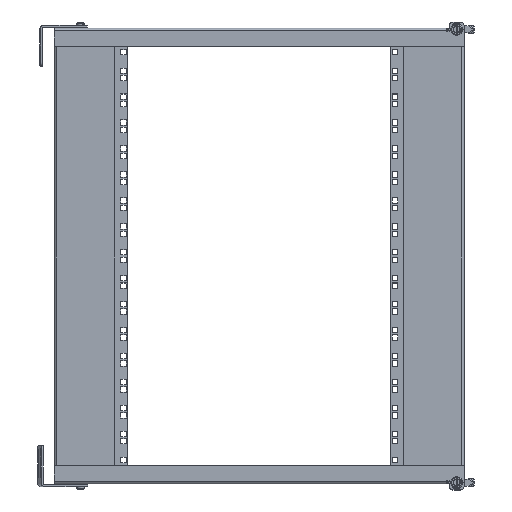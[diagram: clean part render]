
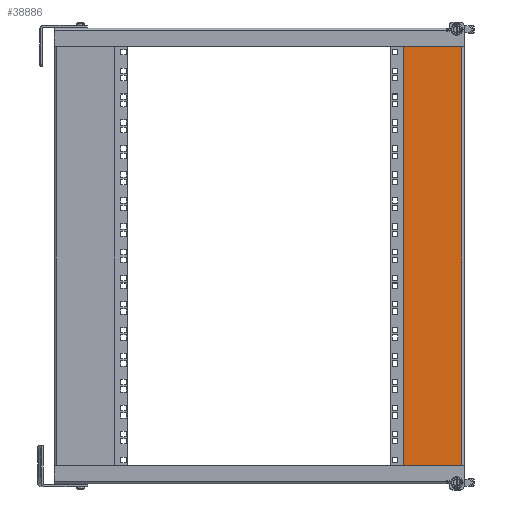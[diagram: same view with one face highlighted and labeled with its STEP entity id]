
A CAD part, top view. The second image highlights one B-rep face of the part: STEP entity #38886.
In plain terms, the highlighted planar face has unit normal (0, 0, 1) as drawn and (0, -1, 0) by its records, which use the part's own axes.
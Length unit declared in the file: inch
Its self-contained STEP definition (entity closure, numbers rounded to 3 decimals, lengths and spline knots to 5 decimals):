
#603 = EDGE_CURVE ( 'NONE', #13053, #13051, #7141, .T. ) ;
#605 = EDGE_CURVE ( 'NONE', #13053, #13055, #7145, .T. ) ;
#606 = EDGE_CURVE ( 'NONE', #13056, #13051, #7140, .T. ) ;
#611 = EDGE_CURVE ( 'NONE', #13055, #13056, #7153, .T. ) ;
#2170 = ORIENTED_EDGE ( 'NONE', *, *, #603, .F. ) ;
#2171 = ORIENTED_EDGE ( 'NONE', *, *, #605, .T. ) ;
#2172 = ORIENTED_EDGE ( 'NONE', *, *, #611, .T. ) ;
#2173 = ORIENTED_EDGE ( 'NONE', *, *, #606, .T. ) ;
#7140 = LINE ( 'NONE', #8617, #7147 ) ;
#7141 = LINE ( 'NONE', #8606, #7143 ) ;
#7143 = VECTOR ( 'NONE', #8616, 39.37008 ) ;
#7145 = LINE ( 'NONE', #8619, #7146 ) ;
#7146 = VECTOR ( 'NONE', #8620, 39.37008 ) ;
#7147 = VECTOR ( 'NONE', #8622, 39.37008 ) ;
#7148 = VECTOR ( 'NONE', #8634, 39.37008 ) ;
#7153 = LINE ( 'NONE', #8633, #7148 ) ;
#8606 = CARTESIAN_POINT ( 'NONE',  ( -14.1125, -0.575, 0.08 ) ) ;
#8616 = DIRECTION ( 'NONE',  ( -1., 0., 0. ) ) ;
#8617 = CARTESIAN_POINT ( 'NONE',  ( -14.1125, -0.575, 0. ) ) ;
#8619 = CARTESIAN_POINT ( 'NONE',  ( 14.1125, -0.575, 0. ) ) ;
#8620 = DIRECTION ( 'NONE',  ( 0., 0., 1. ) ) ;
#8622 = DIRECTION ( 'NONE',  ( 0., 0., -1. ) ) ;
#8633 = CARTESIAN_POINT ( 'NONE',  ( 14.1125, -0.575, 3.964 ) ) ;
#8634 = DIRECTION ( 'NONE',  ( -1., 0., 0. ) ) ;
#13051 = VERTEX_POINT ( 'NONE', #28679 ) ;
#13053 = VERTEX_POINT ( 'NONE', #28681 ) ;
#13055 = VERTEX_POINT ( 'NONE', #28683 ) ;
#13056 = VERTEX_POINT ( 'NONE', #28684 ) ;
#15479 = EDGE_LOOP ( 'NONE', ( #2170, #2171, #2172, #2173 ) ) ;
#23147 = AXIS2_PLACEMENT_3D ( 'NONE', #34431, #34443, #34444 ) ;
#28679 = CARTESIAN_POINT ( 'NONE',  ( -14.1125, -0.575, 0.08 ) ) ;
#28681 = CARTESIAN_POINT ( 'NONE',  ( 14.1125, -0.575, 0.08 ) ) ;
#28683 = CARTESIAN_POINT ( 'NONE',  ( 14.1125, -0.575, 3.964 ) ) ;
#28684 = CARTESIAN_POINT ( 'NONE',  ( -14.1125, -0.575, 3.964 ) ) ;
#29514 = FACE_OUTER_BOUND ( 'NONE', #15479, .T. ) ;
#34431 = CARTESIAN_POINT ( 'NONE',  ( 14.1125, -0.575, 0. ) ) ;
#34438 = PLANE ( 'NONE',  #23147 ) ;
#34443 = DIRECTION ( 'NONE',  ( 0., 1., 0. ) ) ;
#34444 = DIRECTION ( 'NONE',  ( 0., 0., 1. ) ) ;
#38886 = ADVANCED_FACE ( 'NONE', ( #29514 ), #34438, .F. ) ;
